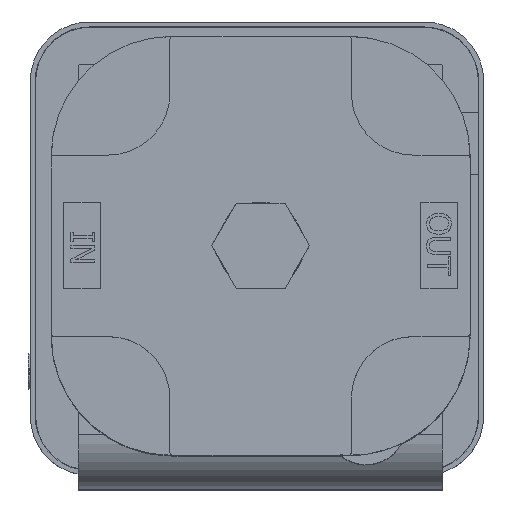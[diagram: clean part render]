
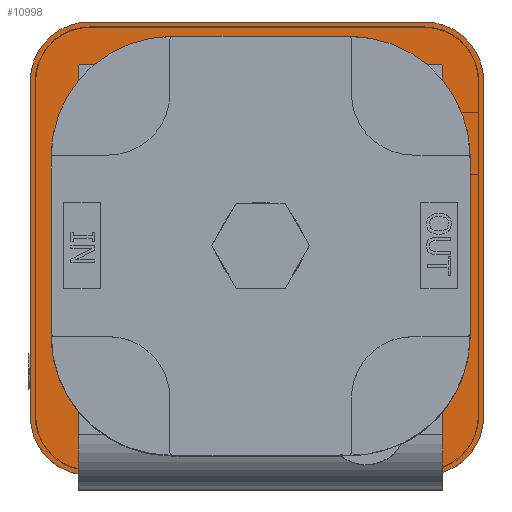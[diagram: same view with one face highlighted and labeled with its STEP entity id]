
A CAD part, top view. The second image highlights one B-rep face of the part: STEP entity #10998.
In plain terms, the highlighted planar face has unit normal (0, 0, 1).
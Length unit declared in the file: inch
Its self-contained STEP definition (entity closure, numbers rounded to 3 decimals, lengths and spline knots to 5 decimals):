
#704=FACE_BOUND('',#2115,.T.);
#778=CIRCLE('',#11464,0.015);
#785=CIRCLE('',#11474,0.015);
#976=CIRCLE('',#11869,0.3);
#977=CIRCLE('',#11870,0.3);
#978=CIRCLE('',#11871,0.3);
#979=CIRCLE('',#11872,0.3);
#1477=FACE_OUTER_BOUND('',#2114,.T.);
#2114=EDGE_LOOP('',(#8339,#8340,#8341,#8342,#8343,#8344,#8345,#8346));
#2115=EDGE_LOOP('',(#8347,#8348,#8349,#8350,#8351,#8352));
#2578=LINE('',#15756,#3538);
#2589=LINE('',#15801,#3549);
#2947=LINE('',#17074,#3907);
#2948=LINE('',#17078,#3908);
#2949=LINE('',#17082,#3909);
#2950=LINE('',#17086,#3910);
#2951=LINE('',#17089,#3911);
#2952=LINE('',#17090,#3912);
#3538=VECTOR('',#12625,0.3937);
#3549=VECTOR('',#12668,0.3937);
#3907=VECTOR('',#13820,0.3937);
#3908=VECTOR('',#13823,0.3937);
#3909=VECTOR('',#13826,0.3937);
#3910=VECTOR('',#13829,0.3937);
#3911=VECTOR('',#13832,0.3937);
#3912=VECTOR('',#13833,0.3937);
#4506=VERTEX_POINT('',#15753);
#4507=VERTEX_POINT('',#15755);
#4518=VERTEX_POINT('',#15781);
#4525=VERTEX_POINT('',#15800);
#4529=VERTEX_POINT('',#15810);
#4886=VERTEX_POINT('',#17072);
#4887=VERTEX_POINT('',#17073);
#4888=VERTEX_POINT('',#17075);
#4889=VERTEX_POINT('',#17077);
#4890=VERTEX_POINT('',#17079);
#4891=VERTEX_POINT('',#17081);
#4892=VERTEX_POINT('',#17083);
#4893=VERTEX_POINT('',#17085);
#4894=VERTEX_POINT('',#17088);
#5568=EDGE_CURVE('',#4506,#4507,#2578,.T.);
#5581=EDGE_CURVE('',#4507,#4518,#778,.F.);
#5591=EDGE_CURVE('',#4518,#4525,#2589,.T.);
#5596=EDGE_CURVE('',#4525,#4529,#785,.F.);
#6155=EDGE_CURVE('',#4886,#4887,#2947,.T.);
#6156=EDGE_CURVE('',#4887,#4888,#976,.T.);
#6157=EDGE_CURVE('',#4888,#4889,#2948,.T.);
#6158=EDGE_CURVE('',#4889,#4890,#977,.T.);
#6159=EDGE_CURVE('',#4890,#4891,#2949,.T.);
#6160=EDGE_CURVE('',#4891,#4892,#978,.T.);
#6161=EDGE_CURVE('',#4892,#4893,#2950,.T.);
#6162=EDGE_CURVE('',#4893,#4886,#979,.T.);
#6163=EDGE_CURVE('',#4506,#4894,#2951,.T.);
#6164=EDGE_CURVE('',#4529,#4894,#2952,.T.);
#8339=ORIENTED_EDGE('',*,*,#6155,.T.);
#8340=ORIENTED_EDGE('',*,*,#6156,.T.);
#8341=ORIENTED_EDGE('',*,*,#6157,.T.);
#8342=ORIENTED_EDGE('',*,*,#6158,.T.);
#8343=ORIENTED_EDGE('',*,*,#6159,.T.);
#8344=ORIENTED_EDGE('',*,*,#6160,.T.);
#8345=ORIENTED_EDGE('',*,*,#6161,.T.);
#8346=ORIENTED_EDGE('',*,*,#6162,.T.);
#8347=ORIENTED_EDGE('',*,*,#5568,.F.);
#8348=ORIENTED_EDGE('',*,*,#6163,.T.);
#8349=ORIENTED_EDGE('',*,*,#6164,.F.);
#8350=ORIENTED_EDGE('',*,*,#5596,.F.);
#8351=ORIENTED_EDGE('',*,*,#5591,.F.);
#8352=ORIENTED_EDGE('',*,*,#5581,.F.);
#10549=PLANE('',#11868);
#10998=ADVANCED_FACE('',(#1477,#704),#10549,.F.);
#11464=AXIS2_PLACEMENT_3D('',#15782,#12648,#12649);
#11474=AXIS2_PLACEMENT_3D('',#15811,#12676,#12677);
#11868=AXIS2_PLACEMENT_3D('',#17071,#13818,#13819);
#11869=AXIS2_PLACEMENT_3D('',#17076,#13821,#13822);
#11870=AXIS2_PLACEMENT_3D('',#17080,#13824,#13825);
#11871=AXIS2_PLACEMENT_3D('',#17084,#13827,#13828);
#11872=AXIS2_PLACEMENT_3D('',#17087,#13830,#13831);
#12625=DIRECTION('',(0.,1.,0.));
#12648=DIRECTION('center_axis',(0.,0.,-1.));
#12649=DIRECTION('ref_axis',(0.707,0.707,0.));
#12668=DIRECTION('',(-1.,0.,0.));
#12676=DIRECTION('center_axis',(0.,0.,-1.));
#12677=DIRECTION('ref_axis',(-0.707,0.707,0.));
#13818=DIRECTION('center_axis',(0.,0.,-1.));
#13819=DIRECTION('ref_axis',(-1.,0.,0.));
#13820=DIRECTION('',(0.,-1.,0.));
#13821=DIRECTION('center_axis',(0.,0.,1.));
#13822=DIRECTION('ref_axis',(0.,1.,0.));
#13823=DIRECTION('',(1.,0.,0.));
#13824=DIRECTION('center_axis',(0.,0.,1.));
#13825=DIRECTION('ref_axis',(-1.,0.,0.));
#13826=DIRECTION('',(0.,1.,0.));
#13827=DIRECTION('center_axis',(0.,0.,1.));
#13828=DIRECTION('ref_axis',(0.,-1.,0.));
#13829=DIRECTION('',(-1.,0.,0.));
#13830=DIRECTION('center_axis',(0.,0.,1.));
#13831=DIRECTION('ref_axis',(1.,0.,0.));
#13832=DIRECTION('',(-1.,0.,0.));
#13833=DIRECTION('',(0.,-1.,0.));
#15753=CARTESIAN_POINT('',(0.925,-0.952,-3.625));
#15755=CARTESIAN_POINT('',(0.925,0.91,-3.625));
#15756=CARTESIAN_POINT('',(0.925,0.925,-3.625));
#15781=CARTESIAN_POINT('',(0.91,0.925,-3.625));
#15782=CARTESIAN_POINT('Origin',(0.91,0.91,-3.625));
#15800=CARTESIAN_POINT('',(-0.91,0.925,-3.625));
#15801=CARTESIAN_POINT('',(0.,0.925,-3.625));
#15810=CARTESIAN_POINT('',(-0.925,0.91,-3.625));
#15811=CARTESIAN_POINT('Origin',(-0.91,0.91,-3.625));
#17071=CARTESIAN_POINT('Origin',(-0.0185,-0.006,
-3.625));
#17072=CARTESIAN_POINT('',(-1.1685,0.844,-3.625));
#17073=CARTESIAN_POINT('',(-1.1685,-0.856,-3.625));
#17074=CARTESIAN_POINT('',(-1.1685,0.844,-3.625));
#17075=CARTESIAN_POINT('',(-0.8685,-1.156,-3.625));
#17076=CARTESIAN_POINT('Origin',(-0.8685,-0.856,
-3.625));
#17077=CARTESIAN_POINT('',(0.8315,-1.156,-3.625));
#17078=CARTESIAN_POINT('',(-0.8685,-1.156,-3.625));
#17079=CARTESIAN_POINT('',(1.1315,-0.856,-3.625));
#17080=CARTESIAN_POINT('Origin',(0.8315,-0.856,-3.625));
#17081=CARTESIAN_POINT('',(1.1315,0.844,-3.625));
#17082=CARTESIAN_POINT('',(1.1315,-0.856,-3.625));
#17083=CARTESIAN_POINT('',(0.8315,1.144,-3.625));
#17084=CARTESIAN_POINT('Origin',(0.8315,0.844,-3.625));
#17085=CARTESIAN_POINT('',(-0.8685,1.144,-3.625));
#17086=CARTESIAN_POINT('',(0.8315,1.144,-3.625));
#17087=CARTESIAN_POINT('Origin',(-0.8685,0.844,-3.625));
#17088=CARTESIAN_POINT('',(-0.925,-0.952,-3.625));
#17089=CARTESIAN_POINT('',(0.,-0.952,-3.625));
#17090=CARTESIAN_POINT('',(-0.925,0.925,-3.625));
